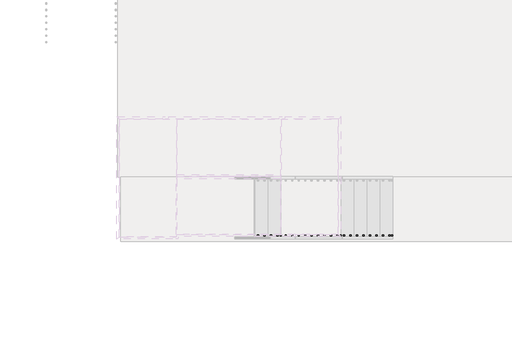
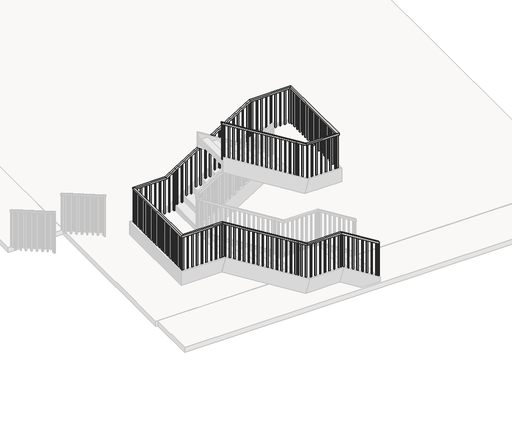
# One storey, part 2 of 5: 1 railing.
"""IFC4 building model written with IfcOpenShell, lengths in millimetres."""

from ifc_helpers import new_model, si_unit, frame, origin, place, context, project, spatial, polyline, outline, extrude, faceted_brep, element, save

model = new_model("IFC4")

# Units and contexts
model_context = context("Model", 3, world=origin())
ifc_project = project(units=[si_unit("LENGTHUNIT", "METRE", prefix="MILLI")], contexts=[model_context])

# Site, building, storey
site = spatial("IfcSite", under=ifc_project)
building = spatial("IfcBuilding", under=site)
storey = spatial("IfcBuildingStorey", under=building, Name="Hardstand", Elevation=42810.0)

# Railing
placement = place(None, origin())
element("IfcRailing", 1, ObjectType="1100mm", at=placement, inside=storey, context=model_context, shape_type="SolidModel", body=[
    faceted_brep([(-73468.5913038, 12142.5710387, 44077.5), (-73468.5913038, 12142.5710387, 44018.6599754), (-73468.5913038, 12192.5710387, 44018.6599754), (-73468.5913038, 12192.5710387, 44077.5), (-74548.5913038, 12142.5710387, 44747.5), (-74562.8408957, 12142.5710387, 44697.5), (-74562.8408957, 12192.5710387, 44697.5), (-74548.5913038, 12192.5710387, 44747.5), (-75528.5913038, 12142.5710387, 44747.5), (-75542.8408957, 12142.5710387, 44697.5), (-75542.8408957, 12192.5710387, 44697.5), (-75528.5913038, 12192.5710387, 44747.5), (-75824.9496532, 12142.5710387, 44872.5119144), (-75798.5913038, 12142.5710387, 44915.0), (-77958.5913038, 12142.5710387, 46255.0), (-77972.8408957, 12142.5710387, 46205.0), (-75824.9496532, 12192.5710387, 44872.5119144), (-77972.8408957, 12192.5710387, 46205.0), (-75798.5913038, 12192.5710387, 44915.0), (-77958.5913038, 12192.5710387, 46255.0), (-79158.1913038, 12142.5710387, 46205.0), (-79158.1913038, 12142.5710387, 46255.0), (-79158.1913038, 14591.7710387, 46255.0), (-79158.1913038, 14591.7710387, 46205.0), (-79108.1913038, 12192.5710387, 46205.0), (-79108.1913038, 14541.7710387, 46205.0), (-79108.1913038, 12192.5710387, 46255.0), (-79108.1913038, 14541.7710387, 46255.0), (-78228.5913038, 14591.7710387, 46255.0), (-78214.341712, 14591.7710387, 46205.0), (-78214.341712, 14541.7710387, 46205.0), (-78228.5913038, 14541.7710387, 46255.0), (-77958.5913038, 14591.7710387, 46422.5), (-77932.2329544, 14591.7710387, 46380.0119144), (-77932.2329544, 14541.7710387, 46380.0119144), (-77958.5913038, 14541.7710387, 46422.5), (-75798.5913038, 14591.7710387, 47762.5), (-75784.341712, 14591.7710387, 47712.5), (-75784.341712, 14541.7710387, 47712.5), (-75798.5913038, 14541.7710387, 47762.5), (-74598.9913038, 14591.7710387, 47762.5), (-74598.9913038, 14591.7710387, 47712.5), (-74648.9913038, 14541.7710387, 47712.5), (-74648.9913038, 14541.7710387, 47762.5), (-74598.9913038, 12192.5710387, 47762.5), (-74598.9913038, 12192.5710387, 47712.5), (-74648.9913038, 12242.5710387, 47712.5), (-74648.9913038, 12242.5710387, 47762.5), (-75528.5913038, 12192.5710387, 47762.5), (-75542.8408957, 12192.5710387, 47712.5), (-75542.8408957, 12242.5710387, 47712.5), (-75528.5913038, 12242.5710387, 47762.5), (-75798.5913038, 12192.5710387, 47930.0), (-75824.9496532, 12192.5710387, 47887.5119144), (-75824.9496532, 12242.5710387, 47887.5119144), (-75798.5913038, 12242.5710387, 47930.0), (-77958.5913038, 12192.5710387, 49270.0), (-77958.5913038, 12242.5710387, 49270.0), (-77958.5913038, 12242.5710387, 49211.1599754), (-77958.5913038, 12192.5710387, 49211.1599754)], [[[0, 1, 2, 3]], [[1, 0, 4, 5]], [[2, 1, 5, 6]], [[3, 2, 6, 7]], [[0, 3, 7, 4]], [[5, 4, 8, 9]], [[6, 5, 9, 10]], [[7, 6, 10, 11]], [[4, 7, 11, 8]], [[12, 13, 14, 15]], [[16, 12, 15, 17]], [[18, 16, 17, 19]], [[13, 18, 19, 14]], [[20, 21, 22, 23]], [[24, 20, 23, 25]], [[26, 24, 25, 27]], [[21, 26, 27, 22]], [[23, 22, 28, 29]], [[25, 23, 29, 30]], [[27, 25, 30, 31]], [[22, 27, 31, 28]], [[9, 8, 13, 12]], [[10, 9, 12, 16]], [[11, 10, 16, 18]], [[8, 11, 18, 13]], [[15, 14, 21, 20]], [[17, 15, 20, 24]], [[19, 17, 24, 26]], [[14, 19, 26, 21]], [[29, 28, 32, 33]], [[30, 29, 33, 34]], [[31, 30, 34, 35]], [[28, 31, 35, 32]], [[33, 32, 36, 37]], [[34, 33, 37, 38]], [[35, 34, 38, 39]], [[32, 35, 39, 36]], [[37, 36, 40, 41]], [[38, 37, 41, 42]], [[39, 38, 42, 43]], [[36, 39, 43, 40]], [[41, 40, 44, 45]], [[42, 41, 45, 46]], [[43, 42, 46, 47]], [[40, 43, 47, 44]], [[45, 44, 48, 49]], [[46, 45, 49, 50]], [[47, 46, 50, 51]], [[44, 47, 51, 48]], [[49, 48, 52, 53]], [[50, 49, 53, 54]], [[51, 50, 54, 55]], [[48, 51, 55, 52]], [[56, 57, 58, 59]], [[53, 52, 56, 59]], [[54, 53, 59, 58]], [[55, 54, 58, 57]], [[52, 55, 57, 56]]]),
    extrude(outline(polyline([(49161.5303458, -77878.5913038), (49177.0396051, -77903.5913038), (48002.5, -77903.5913038), (48002.5, -77878.5913038), (49161.5303458, -77878.5913038)])), frame((0.0, 12205.0710387, 0.0), z_axis=(0.0, 1.0, 0.0), x_axis=(0.0, 0.0, 1.0)), (0.0, 0.0, 1.0), 25.0),
    extrude(outline(polyline([(49077.7803458, -77743.5913038), (49093.2896051, -77768.5913038), (48002.5, -77768.5913038), (48002.5, -77743.5913038), (49077.7803458, -77743.5913038)])), frame((0.0, 12205.0710387, 0.0), z_axis=(0.0, 1.0, 0.0), x_axis=(0.0, 0.0, 1.0)), (0.0, 0.0, 1.0), 25.0),
    extrude(outline(polyline([(48994.0303458, -77608.5913038), (49009.5396051, -77633.5913038), (47835.0, -77633.5913038), (47835.0, -77608.5913038), (48994.0303458, -77608.5913038)])), frame((0.0, 12205.0710387, 0.0), z_axis=(0.0, 1.0, 0.0), x_axis=(0.0, 0.0, 1.0)), (0.0, 0.0, 1.0), 25.0),
    extrude(outline(polyline([(48910.2803458, -77473.5913038), (48925.7896051, -77498.5913038), (47835.0, -77498.5913038), (47835.0, -77473.5913038), (48910.2803458, -77473.5913038)])), frame((0.0, 12205.0710387, 0.0), z_axis=(0.0, 1.0, 0.0), x_axis=(0.0, 0.0, 1.0)), (0.0, 0.0, 1.0), 25.0),
    extrude(outline(polyline([(48826.5303458, -77338.5913038), (48842.0396051, -77363.5913038), (47667.5, -77363.5913038), (47667.5, -77338.5913038), (48826.5303458, -77338.5913038)])), frame((0.0, 12205.0710387, 0.0), z_axis=(0.0, 1.0, 0.0), x_axis=(0.0, 0.0, 1.0)), (0.0, 0.0, 1.0), 25.0),
    extrude(outline(polyline([(48742.7803458, -77203.5913038), (48758.2896051, -77228.5913038), (47667.5, -77228.5913038), (47667.5, -77203.5913038), (48742.7803458, -77203.5913038)])), frame((0.0, 12205.0710387, 0.0), z_axis=(0.0, 1.0, 0.0), x_axis=(0.0, 0.0, 1.0)), (0.0, 0.0, 1.0), 25.0),
    extrude(outline(polyline([(48659.0303458, -77068.5913038), (48674.5396051, -77093.5913038), (47500.0, -77093.5913038), (47500.0, -77068.5913038), (48659.0303458, -77068.5913038)])), frame((0.0, 12205.0710387, 0.0), z_axis=(0.0, 1.0, 0.0), x_axis=(0.0, 0.0, 1.0)), (0.0, 0.0, 1.0), 25.0),
    extrude(outline(polyline([(48575.2803458, -76933.5913038), (48590.7896051, -76958.5913038), (47500.0, -76958.5913038), (47500.0, -76933.5913038), (48575.2803458, -76933.5913038)])), frame((0.0, 12205.0710387, 0.0), z_axis=(0.0, 1.0, 0.0), x_axis=(0.0, 0.0, 1.0)), (0.0, 0.0, 1.0), 25.0),
    extrude(outline(polyline([(48491.5303458, -76798.5913038), (48507.0396051, -76823.5913038), (47332.5, -76823.5913038), (47332.5, -76798.5913038), (48491.5303458, -76798.5913038)])), frame((0.0, 12205.0710387, 0.0), z_axis=(0.0, 1.0, 0.0), x_axis=(0.0, 0.0, 1.0)), (0.0, 0.0, 1.0), 25.0),
    extrude(outline(polyline([(48407.7803458, -76663.5913038), (48423.2896051, -76688.5913038), (47332.5, -76688.5913038), (47332.5, -76663.5913038), (48407.7803458, -76663.5913038)])), frame((0.0, 12205.0710387, 0.0), z_axis=(0.0, 1.0, 0.0), x_axis=(0.0, 0.0, 1.0)), (0.0, 0.0, 1.0), 25.0),
    extrude(outline(polyline([(48324.0303458, -76528.5913038), (48339.5396051, -76553.5913038), (47165.0, -76553.5913038), (47165.0, -76528.5913038), (48324.0303458, -76528.5913038)])), frame((0.0, 12205.0710387, 0.0), z_axis=(0.0, 1.0, 0.0), x_axis=(0.0, 0.0, 1.0)), (0.0, 0.0, 1.0), 25.0),
    extrude(outline(polyline([(48240.2803458, -76393.5913038), (48255.7896051, -76418.5913038), (47165.0, -76418.5913038), (47165.0, -76393.5913038), (48240.2803458, -76393.5913038)])), frame((0.0, 12205.0710387, 0.0), z_axis=(0.0, 1.0, 0.0), x_axis=(0.0, 0.0, 1.0)), (0.0, 0.0, 1.0), 25.0),
    extrude(outline(polyline([(48156.5303458, -76258.5913038), (48172.0396051, -76283.5913038), (46997.5, -76283.5913038), (46997.5, -76258.5913038), (48156.5303458, -76258.5913038)])), frame((0.0, 12205.0710387, 0.0), z_axis=(0.0, 1.0, 0.0), x_axis=(0.0, 0.0, 1.0)), (0.0, 0.0, 1.0), 25.0),
    extrude(outline(polyline([(48072.7803458, -76123.5913038), (48088.2896051, -76148.5913038), (46997.5, -76148.5913038), (46997.5, -76123.5913038), (48072.7803458, -76123.5913038)])), frame((0.0, 12205.0710387, 0.0), z_axis=(0.0, 1.0, 0.0), x_axis=(0.0, 0.0, 1.0)), (0.0, 0.0, 1.0), 25.0),
    extrude(outline(polyline([(47989.0303458, -75988.5913038), (48004.5396051, -76013.5913038), (46830.0, -76013.5913038), (46830.0, -75988.5913038), (47989.0303458, -75988.5913038)])), frame((0.0, 12205.0710387, 0.0), z_axis=(0.0, 1.0, 0.0), x_axis=(0.0, 0.0, 1.0)), (0.0, 0.0, 1.0), 25.0),
    extrude(outline(polyline([(47905.2803458, -75853.5913038), (47920.7896051, -75878.5913038), (46830.0, -75878.5913038), (46830.0, -75853.5913038), (47905.2803458, -75853.5913038)])), frame((0.0, 12205.0710387, 0.0), z_axis=(0.0, 1.0, 0.0), x_axis=(0.0, 0.0, 1.0)), (0.0, 0.0, 1.0), 25.0),
    extrude(outline(polyline([(47846.5933088, -75758.9913038), (47862.102568, -75783.9913038), (46662.5, -75783.9913038), (46662.5, -75758.9913038), (47846.5933088, -75758.9913038)])), frame((0.0, 12205.0710387, 0.0), z_axis=(0.0, 1.0, 0.0), x_axis=(0.0, 0.0, 1.0)), (0.0, 0.0, 1.0), 25.0),
    extrude(outline(polyline([(47762.8433088, -75623.9913038), (47778.352568, -75648.9913038), (46662.5, -75648.9913038), (46662.5, -75623.9913038), (47762.8433088, -75623.9913038)])), frame((0.0, 12205.0710387, 0.0), z_axis=(0.0, 1.0, 0.0), x_axis=(0.0, 0.0, 1.0)), (0.0, 0.0, 1.0), 25.0),
    extrude(outline(polyline([(-75488.9913038, 12205.0710387), (-75513.9913038, 12205.0710387), (-75513.9913038, 12230.0710387), (-75488.9913038, 12230.0710387), (-75488.9913038, 12205.0710387)])), frame((0.0, 0.0, 46662.5), z_axis=(0.0, 0.0, 1.0), x_axis=(1.0, 0.0, 0.0)), (0.0, 0.0, 1.0), 1050.0),
    extrude(outline(polyline([(-75353.9913038, 12205.0710387), (-75378.9913038, 12205.0710387), (-75378.9913038, 12230.0710387), (-75353.9913038, 12230.0710387), (-75353.9913038, 12205.0710387)])), frame((0.0, 0.0, 46662.5), z_axis=(0.0, 0.0, 1.0), x_axis=(1.0, 0.0, 0.0)), (0.0, 0.0, 1.0), 1050.0),
    extrude(outline(polyline([(-75218.9913038, 12205.0710387), (-75243.9913038, 12205.0710387), (-75243.9913038, 12230.0710387), (-75218.9913038, 12230.0710387), (-75218.9913038, 12205.0710387)])), frame((0.0, 0.0, 46662.5), z_axis=(0.0, 0.0, 1.0), x_axis=(1.0, 0.0, 0.0)), (0.0, 0.0, 1.0), 1050.0),
    extrude(outline(polyline([(-75083.9913038, 12205.0710387), (-75108.9913038, 12205.0710387), (-75108.9913038, 12230.0710387), (-75083.9913038, 12230.0710387), (-75083.9913038, 12205.0710387)])), frame((0.0, 0.0, 46662.5), z_axis=(0.0, 0.0, 1.0), x_axis=(1.0, 0.0, 0.0)), (0.0, 0.0, 1.0), 1050.0),
    extrude(outline(polyline([(-74948.9913038, 12205.0710387), (-74973.9913038, 12205.0710387), (-74973.9913038, 12230.0710387), (-74948.9913038, 12230.0710387), (-74948.9913038, 12205.0710387)])), frame((0.0, 0.0, 46662.5), z_axis=(0.0, 0.0, 1.0), x_axis=(1.0, 0.0, 0.0)), (0.0, 0.0, 1.0), 1050.0),
    extrude(outline(polyline([(-74813.9913038, 12205.0710387), (-74838.9913038, 12205.0710387), (-74838.9913038, 12230.0710387), (-74813.9913038, 12230.0710387), (-74813.9913038, 12205.0710387)])), frame((0.0, 0.0, 46662.5), z_axis=(0.0, 0.0, 1.0), x_axis=(1.0, 0.0, 0.0)), (0.0, 0.0, 1.0), 1050.0),
    extrude(outline(polyline([(-74678.9913038, 12205.0710387), (-74703.9913038, 12205.0710387), (-74703.9913038, 12230.0710387), (-74678.9913038, 12230.0710387), (-74678.9913038, 12205.0710387)])), frame((0.0, 0.0, 46662.5), z_axis=(0.0, 0.0, 1.0), x_axis=(1.0, 0.0, 0.0)), (0.0, 0.0, 1.0), 1050.0),
    extrude(outline(polyline([(-74611.4913038, 12351.7710387), (-74611.4913038, 12326.7710387), (-74636.4913038, 12326.7710387), (-74636.4913038, 12351.7710387), (-74611.4913038, 12351.7710387)])), frame((0.0, 0.0, 46662.5), z_axis=(0.0, 0.0, 1.0), x_axis=(1.0, 0.0, 0.0)), (0.0, 0.0, 1.0), 1050.0),
    extrude(outline(polyline([(-74611.4913038, 12486.7710387), (-74611.4913038, 12461.7710387), (-74636.4913038, 12461.7710387), (-74636.4913038, 12486.7710387), (-74611.4913038, 12486.7710387)])), frame((0.0, 0.0, 46662.5), z_axis=(0.0, 0.0, 1.0), x_axis=(1.0, 0.0, 0.0)), (0.0, 0.0, 1.0), 1050.0),
    extrude(outline(polyline([(-74611.4913038, 12621.7710387), (-74611.4913038, 12596.7710387), (-74636.4913038, 12596.7710387), (-74636.4913038, 12621.7710387), (-74611.4913038, 12621.7710387)])), frame((0.0, 0.0, 46662.5), z_axis=(0.0, 0.0, 1.0), x_axis=(1.0, 0.0, 0.0)), (0.0, 0.0, 1.0), 1050.0),
    extrude(outline(polyline([(-74611.4913038, 12756.7710387), (-74611.4913038, 12731.7710387), (-74636.4913038, 12731.7710387), (-74636.4913038, 12756.7710387), (-74611.4913038, 12756.7710387)])), frame((0.0, 0.0, 46662.5), z_axis=(0.0, 0.0, 1.0), x_axis=(1.0, 0.0, 0.0)), (0.0, 0.0, 1.0), 1050.0),
    extrude(outline(polyline([(-74611.4913038, 12891.7710387), (-74611.4913038, 12866.7710387), (-74636.4913038, 12866.7710387), (-74636.4913038, 12891.7710387), (-74611.4913038, 12891.7710387)])), frame((0.0, 0.0, 46662.5), z_axis=(0.0, 0.0, 1.0), x_axis=(1.0, 0.0, 0.0)), (0.0, 0.0, 1.0), 1050.0),
    extrude(outline(polyline([(-74611.4913038, 13026.7710387), (-74611.4913038, 13001.7710387), (-74636.4913038, 13001.7710387), (-74636.4913038, 13026.7710387), (-74611.4913038, 13026.7710387)])), frame((0.0, 0.0, 46662.5), z_axis=(0.0, 0.0, 1.0), x_axis=(1.0, 0.0, 0.0)), (0.0, 0.0, 1.0), 1050.0),
    extrude(outline(polyline([(-74611.4913038, 13161.7710387), (-74611.4913038, 13136.7710387), (-74636.4913038, 13136.7710387), (-74636.4913038, 13161.7710387), (-74611.4913038, 13161.7710387)])), frame((0.0, 0.0, 46662.5), z_axis=(0.0, 0.0, 1.0), x_axis=(1.0, 0.0, 0.0)), (0.0, 0.0, 1.0), 1050.0),
    extrude(outline(polyline([(-74611.4913038, 13296.7710387), (-74611.4913038, 13271.7710387), (-74636.4913038, 13271.7710387), (-74636.4913038, 13296.7710387), (-74611.4913038, 13296.7710387)])), frame((0.0, 0.0, 46662.5), z_axis=(0.0, 0.0, 1.0), x_axis=(1.0, 0.0, 0.0)), (0.0, 0.0, 1.0), 1050.0),
    extrude(outline(polyline([(-74611.4913038, 13431.7710387), (-74611.4913038, 13406.7710387), (-74636.4913038, 13406.7710387), (-74636.4913038, 13431.7710387), (-74611.4913038, 13431.7710387)])), frame((0.0, 0.0, 46662.5), z_axis=(0.0, 0.0, 1.0), x_axis=(1.0, 0.0, 0.0)), (0.0, 0.0, 1.0), 1050.0),
    extrude(outline(polyline([(-74611.4913038, 13566.7710387), (-74611.4913038, 13541.7710387), (-74636.4913038, 13541.7710387), (-74636.4913038, 13566.7710387), (-74611.4913038, 13566.7710387)])), frame((0.0, 0.0, 46662.5), z_axis=(0.0, 0.0, 1.0), x_axis=(1.0, 0.0, 0.0)), (0.0, 0.0, 1.0), 1050.0),
    extrude(outline(polyline([(-74611.4913038, 13701.7710387), (-74611.4913038, 13676.7710387), (-74636.4913038, 13676.7710387), (-74636.4913038, 13701.7710387), (-74611.4913038, 13701.7710387)])), frame((0.0, 0.0, 46662.5), z_axis=(0.0, 0.0, 1.0), x_axis=(1.0, 0.0, 0.0)), (0.0, 0.0, 1.0), 1050.0),
    extrude(outline(polyline([(-74611.4913038, 13836.7710387), (-74611.4913038, 13811.7710387), (-74636.4913038, 13811.7710387), (-74636.4913038, 13836.7710387), (-74611.4913038, 13836.7710387)])), frame((0.0, 0.0, 46662.5), z_axis=(0.0, 0.0, 1.0), x_axis=(1.0, 0.0, 0.0)), (0.0, 0.0, 1.0), 1050.0),
    extrude(outline(polyline([(-74611.4913038, 13971.7710387), (-74611.4913038, 13946.7710387), (-74636.4913038, 13946.7710387), (-74636.4913038, 13971.7710387), (-74611.4913038, 13971.7710387)])), frame((0.0, 0.0, 46662.5), z_axis=(0.0, 0.0, 1.0), x_axis=(1.0, 0.0, 0.0)), (0.0, 0.0, 1.0), 1050.0),
    extrude(outline(polyline([(-74611.4913038, 14106.7710387), (-74611.4913038, 14081.7710387), (-74636.4913038, 14081.7710387), (-74636.4913038, 14106.7710387), (-74611.4913038, 14106.7710387)])), frame((0.0, 0.0, 46662.5), z_axis=(0.0, 0.0, 1.0), x_axis=(1.0, 0.0, 0.0)), (0.0, 0.0, 1.0), 1050.0),
    extrude(outline(polyline([(-74611.4913038, 14241.7710387), (-74611.4913038, 14216.7710387), (-74636.4913038, 14216.7710387), (-74636.4913038, 14241.7710387), (-74611.4913038, 14241.7710387)])), frame((0.0, 0.0, 46662.5), z_axis=(0.0, 0.0, 1.0), x_axis=(1.0, 0.0, 0.0)), (0.0, 0.0, 1.0), 1050.0),
    extrude(outline(polyline([(-74611.4913038, 14376.7710387), (-74611.4913038, 14351.7710387), (-74636.4913038, 14351.7710387), (-74636.4913038, 14376.7710387), (-74611.4913038, 14376.7710387)])), frame((0.0, 0.0, 46662.5), z_axis=(0.0, 0.0, 1.0), x_axis=(1.0, 0.0, 0.0)), (0.0, 0.0, 1.0), 1050.0),
    extrude(outline(polyline([(-74611.4913038, 14511.7710387), (-74611.4913038, 14486.7710387), (-74636.4913038, 14486.7710387), (-74636.4913038, 14511.7710387), (-74611.4913038, 14511.7710387)])), frame((0.0, 0.0, 46662.5), z_axis=(0.0, 0.0, 1.0), x_axis=(1.0, 0.0, 0.0)), (0.0, 0.0, 1.0), 1050.0),
    extrude(outline(polyline([(-74663.5913038, 14579.2710387), (-74638.5913038, 14579.2710387), (-74638.5913038, 14554.2710387), (-74663.5913038, 14554.2710387), (-74663.5913038, 14579.2710387)])), frame((0.0, 0.0, 46662.5), z_axis=(0.0, 0.0, 1.0), x_axis=(1.0, 0.0, 0.0)), (0.0, 0.0, 1.0), 1050.0),
    extrude(outline(polyline([(-74798.5913038, 14579.2710387), (-74773.5913038, 14579.2710387), (-74773.5913038, 14554.2710387), (-74798.5913038, 14554.2710387), (-74798.5913038, 14579.2710387)])), frame((0.0, 0.0, 46662.5), z_axis=(0.0, 0.0, 1.0), x_axis=(1.0, 0.0, 0.0)), (0.0, 0.0, 1.0), 1050.0),
    extrude(outline(polyline([(-74933.5913038, 14579.2710387), (-74908.5913038, 14579.2710387), (-74908.5913038, 14554.2710387), (-74933.5913038, 14554.2710387), (-74933.5913038, 14579.2710387)])), frame((0.0, 0.0, 46662.5), z_axis=(0.0, 0.0, 1.0), x_axis=(1.0, 0.0, 0.0)), (0.0, 0.0, 1.0), 1050.0),
    extrude(outline(polyline([(-75068.5913038, 14579.2710387), (-75043.5913038, 14579.2710387), (-75043.5913038, 14554.2710387), (-75068.5913038, 14554.2710387), (-75068.5913038, 14579.2710387)])), frame((0.0, 0.0, 46662.5), z_axis=(0.0, 0.0, 1.0), x_axis=(1.0, 0.0, 0.0)), (0.0, 0.0, 1.0), 1050.0),
    extrude(outline(polyline([(-75203.5913038, 14579.2710387), (-75178.5913038, 14579.2710387), (-75178.5913038, 14554.2710387), (-75203.5913038, 14554.2710387), (-75203.5913038, 14579.2710387)])), frame((0.0, 0.0, 46662.5), z_axis=(0.0, 0.0, 1.0), x_axis=(1.0, 0.0, 0.0)), (0.0, 0.0, 1.0), 1050.0),
    extrude(outline(polyline([(-75338.5913038, 14579.2710387), (-75313.5913038, 14579.2710387), (-75313.5913038, 14554.2710387), (-75338.5913038, 14554.2710387), (-75338.5913038, 14579.2710387)])), frame((0.0, 0.0, 46662.5), z_axis=(0.0, 0.0, 1.0), x_axis=(1.0, 0.0, 0.0)), (0.0, 0.0, 1.0), 1050.0),
    extrude(outline(polyline([(-75473.5913038, 14579.2710387), (-75448.5913038, 14579.2710387), (-75448.5913038, 14554.2710387), (-75473.5913038, 14554.2710387), (-75473.5913038, 14579.2710387)])), frame((0.0, 0.0, 46662.5), z_axis=(0.0, 0.0, 1.0), x_axis=(1.0, 0.0, 0.0)), (0.0, 0.0, 1.0), 1050.0),
    extrude(outline(polyline([(-75608.5913038, 14579.2710387), (-75583.5913038, 14579.2710387), (-75583.5913038, 14554.2710387), (-75608.5913038, 14554.2710387), (-75608.5913038, 14579.2710387)])), frame((0.0, 0.0, 46662.5), z_axis=(0.0, 0.0, 1.0), x_axis=(1.0, 0.0, 0.0)), (0.0, 0.0, 1.0), 1050.0),
    extrude(outline(polyline([(-75743.5913038, 14579.2710387), (-75718.5913038, 14579.2710387), (-75718.5913038, 14554.2710387), (-75743.5913038, 14554.2710387), (-75743.5913038, 14579.2710387)])), frame((0.0, 0.0, 46662.5), z_axis=(0.0, 0.0, 1.0), x_axis=(1.0, 0.0, 0.0)), (0.0, 0.0, 1.0), 1050.0),
    extrude(outline(polyline([(46495.0, -75878.5913038), (46495.0, -75853.5913038), (47669.5396051, -75853.5913038), (47654.0303458, -75878.5913038), (46495.0, -75878.5913038)])), frame((0.0, 14554.2710387, 0.0), z_axis=(0.0, 1.0, 0.0), x_axis=(0.0, 0.0, 1.0)), (0.0, 0.0, 1.0), 25.0),
    extrude(outline(polyline([(46495.0, -76013.5913038), (46495.0, -75988.5913038), (47585.7896051, -75988.5913038), (47570.2803458, -76013.5913038), (46495.0, -76013.5913038)])), frame((0.0, 14554.2710387, 0.0), z_axis=(0.0, 1.0, 0.0), x_axis=(0.0, 0.0, 1.0)), (0.0, 0.0, 1.0), 25.0),
    extrude(outline(polyline([(46327.5, -76148.5913038), (46327.5, -76123.5913038), (47502.0396051, -76123.5913038), (47486.5303458, -76148.5913038), (46327.5, -76148.5913038)])), frame((0.0, 14554.2710387, 0.0), z_axis=(0.0, 1.0, 0.0), x_axis=(0.0, 0.0, 1.0)), (0.0, 0.0, 1.0), 25.0),
    extrude(outline(polyline([(46327.5, -76283.5913038), (46327.5, -76258.5913038), (47418.2896051, -76258.5913038), (47402.7803458, -76283.5913038), (46327.5, -76283.5913038)])), frame((0.0, 14554.2710387, 0.0), z_axis=(0.0, 1.0, 0.0), x_axis=(0.0, 0.0, 1.0)), (0.0, 0.0, 1.0), 25.0),
    extrude(outline(polyline([(46160.0, -76418.5913038), (46160.0, -76393.5913038), (47334.5396051, -76393.5913038), (47319.0303458, -76418.5913038), (46160.0, -76418.5913038)])), frame((0.0, 14554.2710387, 0.0), z_axis=(0.0, 1.0, 0.0), x_axis=(0.0, 0.0, 1.0)), (0.0, 0.0, 1.0), 25.0),
    extrude(outline(polyline([(46160.0, -76553.5913038), (46160.0, -76528.5913038), (47250.7896051, -76528.5913038), (47235.2803458, -76553.5913038), (46160.0, -76553.5913038)])), frame((0.0, 14554.2710387, 0.0), z_axis=(0.0, 1.0, 0.0), x_axis=(0.0, 0.0, 1.0)), (0.0, 0.0, 1.0), 25.0),
    extrude(outline(polyline([(45992.5, -76688.5913038), (45992.5, -76663.5913038), (47167.0396051, -76663.5913038), (47151.5303458, -76688.5913038), (45992.5, -76688.5913038)])), frame((0.0, 14554.2710387, 0.0), z_axis=(0.0, 1.0, 0.0), x_axis=(0.0, 0.0, 1.0)), (0.0, 0.0, 1.0), 25.0),
    extrude(outline(polyline([(45992.5, -76823.5913038), (45992.5, -76798.5913038), (47083.2896051, -76798.5913038), (47067.7803458, -76823.5913038), (45992.5, -76823.5913038)])), frame((0.0, 14554.2710387, 0.0), z_axis=(0.0, 1.0, 0.0), x_axis=(0.0, 0.0, 1.0)), (0.0, 0.0, 1.0), 25.0),
    extrude(outline(polyline([(45825.0, -76958.5913038), (45825.0, -76933.5913038), (46999.5396051, -76933.5913038), (46984.0303458, -76958.5913038), (45825.0, -76958.5913038)])), frame((0.0, 14554.2710387, 0.0), z_axis=(0.0, 1.0, 0.0), x_axis=(0.0, 0.0, 1.0)), (0.0, 0.0, 1.0), 25.0),
    extrude(outline(polyline([(45825.0, -77093.5913038), (45825.0, -77068.5913038), (46915.7896051, -77068.5913038), (46900.2803458, -77093.5913038), (45825.0, -77093.5913038)])), frame((0.0, 14554.2710387, 0.0), z_axis=(0.0, 1.0, 0.0), x_axis=(0.0, 0.0, 1.0)), (0.0, 0.0, 1.0), 25.0),
    extrude(outline(polyline([(45657.5, -77228.5913038), (45657.5, -77203.5913038), (46832.0396051, -77203.5913038), (46816.5303458, -77228.5913038), (45657.5, -77228.5913038)])), frame((0.0, 14554.2710387, 0.0), z_axis=(0.0, 1.0, 0.0), x_axis=(0.0, 0.0, 1.0)), (0.0, 0.0, 1.0), 25.0),
    extrude(outline(polyline([(45657.5, -77363.5913038), (45657.5, -77338.5913038), (46748.2896051, -77338.5913038), (46732.7803458, -77363.5913038), (45657.5, -77363.5913038)])), frame((0.0, 14554.2710387, 0.0), z_axis=(0.0, 1.0, 0.0), x_axis=(0.0, 0.0, 1.0)), (0.0, 0.0, 1.0), 25.0),
    extrude(outline(polyline([(45490.0, -77498.5913038), (45490.0, -77473.5913038), (46664.5396051, -77473.5913038), (46649.0303458, -77498.5913038), (45490.0, -77498.5913038)])), frame((0.0, 14554.2710387, 0.0), z_axis=(0.0, 1.0, 0.0), x_axis=(0.0, 0.0, 1.0)), (0.0, 0.0, 1.0), 25.0),
    extrude(outline(polyline([(45490.0, -77633.5913038), (45490.0, -77608.5913038), (46580.7896051, -77608.5913038), (46565.2803458, -77633.5913038), (45490.0, -77633.5913038)])), frame((0.0, 14554.2710387, 0.0), z_axis=(0.0, 1.0, 0.0), x_axis=(0.0, 0.0, 1.0)), (0.0, 0.0, 1.0), 25.0),
    extrude(outline(polyline([(45322.5, -77768.5913038), (45322.5, -77743.5913038), (46497.0396051, -77743.5913038), (46481.5303458, -77768.5913038), (45322.5, -77768.5913038)])), frame((0.0, 14554.2710387, 0.0), z_axis=(0.0, 1.0, 0.0), x_axis=(0.0, 0.0, 1.0)), (0.0, 0.0, 1.0), 25.0),
    extrude(outline(polyline([(45322.5, -77903.5913038), (45322.5, -77878.5913038), (46413.2896051, -77878.5913038), (46397.7803458, -77903.5913038), (45322.5, -77903.5913038)])), frame((0.0, 14554.2710387, 0.0), z_axis=(0.0, 1.0, 0.0), x_axis=(0.0, 0.0, 1.0)), (0.0, 0.0, 1.0), 25.0),
    extrude(outline(polyline([(45155.0, -77998.1913038), (45155.0, -77973.1913038), (46354.602568, -77973.1913038), (46339.0933088, -77998.1913038), (45155.0, -77998.1913038)])), frame((0.0, 14554.2710387, 0.0), z_axis=(0.0, 1.0, 0.0), x_axis=(0.0, 0.0, 1.0)), (0.0, 0.0, 1.0), 25.0),
    extrude(outline(polyline([(45155.0, -78133.1913038), (45155.0, -78108.1913038), (46270.852568, -78108.1913038), (46255.3433088, -78133.1913038), (45155.0, -78133.1913038)])), frame((0.0, 14554.2710387, 0.0), z_axis=(0.0, 1.0, 0.0), x_axis=(0.0, 0.0, 1.0)), (0.0, 0.0, 1.0), 25.0),
    extrude(outline(polyline([(-78268.1913038, 14579.2710387), (-78243.1913038, 14579.2710387), (-78243.1913038, 14554.2710387), (-78268.1913038, 14554.2710387), (-78268.1913038, 14579.2710387)])), frame((0.0, 0.0, 45155.0), z_axis=(0.0, 0.0, 1.0), x_axis=(1.0, 0.0, 0.0)), (0.0, 0.0, 1.0), 1050.0),
    extrude(outline(polyline([(-78403.1913038, 14579.2710387), (-78378.1913038, 14579.2710387), (-78378.1913038, 14554.2710387), (-78403.1913038, 14554.2710387), (-78403.1913038, 14579.2710387)])), frame((0.0, 0.0, 45155.0), z_axis=(0.0, 0.0, 1.0), x_axis=(1.0, 0.0, 0.0)), (0.0, 0.0, 1.0), 1050.0),
    extrude(outline(polyline([(-78538.1913038, 14579.2710387), (-78513.1913038, 14579.2710387), (-78513.1913038, 14554.2710387), (-78538.1913038, 14554.2710387), (-78538.1913038, 14579.2710387)])), frame((0.0, 0.0, 45155.0), z_axis=(0.0, 0.0, 1.0), x_axis=(1.0, 0.0, 0.0)), (0.0, 0.0, 1.0), 1050.0),
    extrude(outline(polyline([(-78673.1913038, 14579.2710387), (-78648.1913038, 14579.2710387), (-78648.1913038, 14554.2710387), (-78673.1913038, 14554.2710387), (-78673.1913038, 14579.2710387)])), frame((0.0, 0.0, 45155.0), z_axis=(0.0, 0.0, 1.0), x_axis=(1.0, 0.0, 0.0)), (0.0, 0.0, 1.0), 1050.0),
    extrude(outline(polyline([(-78808.1913038, 14579.2710387), (-78783.1913038, 14579.2710387), (-78783.1913038, 14554.2710387), (-78808.1913038, 14554.2710387), (-78808.1913038, 14579.2710387)])), frame((0.0, 0.0, 45155.0), z_axis=(0.0, 0.0, 1.0), x_axis=(1.0, 0.0, 0.0)), (0.0, 0.0, 1.0), 1050.0),
    extrude(outline(polyline([(-78943.1913038, 14579.2710387), (-78918.1913038, 14579.2710387), (-78918.1913038, 14554.2710387), (-78943.1913038, 14554.2710387), (-78943.1913038, 14579.2710387)])), frame((0.0, 0.0, 45155.0), z_axis=(0.0, 0.0, 1.0), x_axis=(1.0, 0.0, 0.0)), (0.0, 0.0, 1.0), 1050.0),
    extrude(outline(polyline([(-79078.1913038, 14579.2710387), (-79053.1913038, 14579.2710387), (-79053.1913038, 14554.2710387), (-79078.1913038, 14554.2710387), (-79078.1913038, 14579.2710387)])), frame((0.0, 0.0, 45155.0), z_axis=(0.0, 0.0, 1.0), x_axis=(1.0, 0.0, 0.0)), (0.0, 0.0, 1.0), 1050.0),
    extrude(outline(polyline([(-79145.6913038, 14517.5710387), (-79145.6913038, 14542.5710387), (-79120.6913038, 14542.5710387), (-79120.6913038, 14517.5710387), (-79145.6913038, 14517.5710387)])), frame((0.0, 0.0, 45155.0), z_axis=(0.0, 0.0, 1.0), x_axis=(1.0, 0.0, 0.0)), (0.0, 0.0, 1.0), 1050.0),
    extrude(outline(polyline([(-79145.6913038, 14382.5710387), (-79145.6913038, 14407.5710387), (-79120.6913038, 14407.5710387), (-79120.6913038, 14382.5710387), (-79145.6913038, 14382.5710387)])), frame((0.0, 0.0, 45155.0), z_axis=(0.0, 0.0, 1.0), x_axis=(1.0, 0.0, 0.0)), (0.0, 0.0, 1.0), 1050.0),
    extrude(outline(polyline([(-79145.6913038, 14247.5710387), (-79145.6913038, 14272.5710387), (-79120.6913038, 14272.5710387), (-79120.6913038, 14247.5710387), (-79145.6913038, 14247.5710387)])), frame((0.0, 0.0, 45155.0), z_axis=(0.0, 0.0, 1.0), x_axis=(1.0, 0.0, 0.0)), (0.0, 0.0, 1.0), 1050.0),
    extrude(outline(polyline([(-79145.6913038, 14112.5710387), (-79145.6913038, 14137.5710387), (-79120.6913038, 14137.5710387), (-79120.6913038, 14112.5710387), (-79145.6913038, 14112.5710387)])), frame((0.0, 0.0, 45155.0), z_axis=(0.0, 0.0, 1.0), x_axis=(1.0, 0.0, 0.0)), (0.0, 0.0, 1.0), 1050.0),
    extrude(outline(polyline([(-79145.6913038, 13977.5710387), (-79145.6913038, 14002.5710387), (-79120.6913038, 14002.5710387), (-79120.6913038, 13977.5710387), (-79145.6913038, 13977.5710387)])), frame((0.0, 0.0, 45155.0), z_axis=(0.0, 0.0, 1.0), x_axis=(1.0, 0.0, 0.0)), (0.0, 0.0, 1.0), 1050.0),
    extrude(outline(polyline([(-79145.6913038, 13842.5710387), (-79145.6913038, 13867.5710387), (-79120.6913038, 13867.5710387), (-79120.6913038, 13842.5710387), (-79145.6913038, 13842.5710387)])), frame((0.0, 0.0, 45155.0), z_axis=(0.0, 0.0, 1.0), x_axis=(1.0, 0.0, 0.0)), (0.0, 0.0, 1.0), 1050.0),
    extrude(outline(polyline([(-79145.6913038, 13707.5710387), (-79145.6913038, 13732.5710387), (-79120.6913038, 13732.5710387), (-79120.6913038, 13707.5710387), (-79145.6913038, 13707.5710387)])), frame((0.0, 0.0, 45155.0), z_axis=(0.0, 0.0, 1.0), x_axis=(1.0, 0.0, 0.0)), (0.0, 0.0, 1.0), 1050.0),
    extrude(outline(polyline([(-79145.6913038, 13572.5710387), (-79145.6913038, 13597.5710387), (-79120.6913038, 13597.5710387), (-79120.6913038, 13572.5710387), (-79145.6913038, 13572.5710387)])), frame((0.0, 0.0, 45155.0), z_axis=(0.0, 0.0, 1.0), x_axis=(1.0, 0.0, 0.0)), (0.0, 0.0, 1.0), 1050.0),
    extrude(outline(polyline([(-79145.6913038, 13437.5710387), (-79145.6913038, 13462.5710387), (-79120.6913038, 13462.5710387), (-79120.6913038, 13437.5710387), (-79145.6913038, 13437.5710387)])), frame((0.0, 0.0, 45155.0), z_axis=(0.0, 0.0, 1.0), x_axis=(1.0, 0.0, 0.0)), (0.0, 0.0, 1.0), 1050.0),
    extrude(outline(polyline([(-79145.6913038, 13302.5710387), (-79145.6913038, 13327.5710387), (-79120.6913038, 13327.5710387), (-79120.6913038, 13302.5710387), (-79145.6913038, 13302.5710387)])), frame((0.0, 0.0, 45155.0), z_axis=(0.0, 0.0, 1.0), x_axis=(1.0, 0.0, 0.0)), (0.0, 0.0, 1.0), 1050.0),
    extrude(outline(polyline([(-79145.6913038, 13167.5710387), (-79145.6913038, 13192.5710387), (-79120.6913038, 13192.5710387), (-79120.6913038, 13167.5710387), (-79145.6913038, 13167.5710387)])), frame((0.0, 0.0, 45155.0), z_axis=(0.0, 0.0, 1.0), x_axis=(1.0, 0.0, 0.0)), (0.0, 0.0, 1.0), 1050.0),
    extrude(outline(polyline([(-79145.6913038, 13032.5710387), (-79145.6913038, 13057.5710387), (-79120.6913038, 13057.5710387), (-79120.6913038, 13032.5710387), (-79145.6913038, 13032.5710387)])), frame((0.0, 0.0, 45155.0), z_axis=(0.0, 0.0, 1.0), x_axis=(1.0, 0.0, 0.0)), (0.0, 0.0, 1.0), 1050.0),
    extrude(outline(polyline([(-79145.6913038, 12897.5710387), (-79145.6913038, 12922.5710387), (-79120.6913038, 12922.5710387), (-79120.6913038, 12897.5710387), (-79145.6913038, 12897.5710387)])), frame((0.0, 0.0, 45155.0), z_axis=(0.0, 0.0, 1.0), x_axis=(1.0, 0.0, 0.0)), (0.0, 0.0, 1.0), 1050.0),
    extrude(outline(polyline([(-79145.6913038, 12762.5710387), (-79145.6913038, 12787.5710387), (-79120.6913038, 12787.5710387), (-79120.6913038, 12762.5710387), (-79145.6913038, 12762.5710387)])), frame((0.0, 0.0, 45155.0), z_axis=(0.0, 0.0, 1.0), x_axis=(1.0, 0.0, 0.0)), (0.0, 0.0, 1.0), 1050.0),
    extrude(outline(polyline([(-79145.6913038, 12627.5710387), (-79145.6913038, 12652.5710387), (-79120.6913038, 12652.5710387), (-79120.6913038, 12627.5710387), (-79145.6913038, 12627.5710387)])), frame((0.0, 0.0, 45155.0), z_axis=(0.0, 0.0, 1.0), x_axis=(1.0, 0.0, 0.0)), (0.0, 0.0, 1.0), 1050.0),
    extrude(outline(polyline([(-79145.6913038, 12492.5710387), (-79145.6913038, 12517.5710387), (-79120.6913038, 12517.5710387), (-79120.6913038, 12492.5710387), (-79145.6913038, 12492.5710387)])), frame((0.0, 0.0, 45155.0), z_axis=(0.0, 0.0, 1.0), x_axis=(1.0, 0.0, 0.0)), (0.0, 0.0, 1.0), 1050.0),
    extrude(outline(polyline([(-79145.6913038, 12357.5710387), (-79145.6913038, 12382.5710387), (-79120.6913038, 12382.5710387), (-79120.6913038, 12357.5710387), (-79145.6913038, 12357.5710387)])), frame((0.0, 0.0, 45155.0), z_axis=(0.0, 0.0, 1.0), x_axis=(1.0, 0.0, 0.0)), (0.0, 0.0, 1.0), 1050.0),
    extrude(outline(polyline([(-79145.6913038, 12222.5710387), (-79145.6913038, 12247.5710387), (-79120.6913038, 12247.5710387), (-79120.6913038, 12222.5710387), (-79145.6913038, 12222.5710387)])), frame((0.0, 0.0, 45155.0), z_axis=(0.0, 0.0, 1.0), x_axis=(1.0, 0.0, 0.0)), (0.0, 0.0, 1.0), 1050.0),
    extrude(outline(polyline([(-79093.5913038, 12155.0710387), (-79118.5913038, 12155.0710387), (-79118.5913038, 12180.0710387), (-79093.5913038, 12180.0710387), (-79093.5913038, 12155.0710387)])), frame((0.0, 0.0, 45155.0), z_axis=(0.0, 0.0, 1.0), x_axis=(1.0, 0.0, 0.0)), (0.0, 0.0, 1.0), 1050.0),
    extrude(outline(polyline([(-78958.5913038, 12155.0710387), (-78983.5913038, 12155.0710387), (-78983.5913038, 12180.0710387), (-78958.5913038, 12180.0710387), (-78958.5913038, 12155.0710387)])), frame((0.0, 0.0, 45155.0), z_axis=(0.0, 0.0, 1.0), x_axis=(1.0, 0.0, 0.0)), (0.0, 0.0, 1.0), 1050.0),
    extrude(outline(polyline([(-78823.5913038, 12155.0710387), (-78848.5913038, 12155.0710387), (-78848.5913038, 12180.0710387), (-78823.5913038, 12180.0710387), (-78823.5913038, 12155.0710387)])), frame((0.0, 0.0, 45155.0), z_axis=(0.0, 0.0, 1.0), x_axis=(1.0, 0.0, 0.0)), (0.0, 0.0, 1.0), 1050.0),
    extrude(outline(polyline([(-78688.5913038, 12155.0710387), (-78713.5913038, 12155.0710387), (-78713.5913038, 12180.0710387), (-78688.5913038, 12180.0710387), (-78688.5913038, 12155.0710387)])), frame((0.0, 0.0, 45155.0), z_axis=(0.0, 0.0, 1.0), x_axis=(1.0, 0.0, 0.0)), (0.0, 0.0, 1.0), 1050.0),
    extrude(outline(polyline([(-78553.5913038, 12155.0710387), (-78578.5913038, 12155.0710387), (-78578.5913038, 12180.0710387), (-78553.5913038, 12180.0710387), (-78553.5913038, 12155.0710387)])), frame((0.0, 0.0, 45155.0), z_axis=(0.0, 0.0, 1.0), x_axis=(1.0, 0.0, 0.0)), (0.0, 0.0, 1.0), 1050.0),
    extrude(outline(polyline([(-78418.5913038, 12155.0710387), (-78443.5913038, 12155.0710387), (-78443.5913038, 12180.0710387), (-78418.5913038, 12180.0710387), (-78418.5913038, 12155.0710387)])), frame((0.0, 0.0, 45155.0), z_axis=(0.0, 0.0, 1.0), x_axis=(1.0, 0.0, 0.0)), (0.0, 0.0, 1.0), 1050.0),
    extrude(outline(polyline([(-78283.5913038, 12155.0710387), (-78308.5913038, 12155.0710387), (-78308.5913038, 12180.0710387), (-78283.5913038, 12180.0710387), (-78283.5913038, 12155.0710387)])), frame((0.0, 0.0, 45155.0), z_axis=(0.0, 0.0, 1.0), x_axis=(1.0, 0.0, 0.0)), (0.0, 0.0, 1.0), 1050.0),
    extrude(outline(polyline([(-78148.5913038, 12155.0710387), (-78173.5913038, 12155.0710387), (-78173.5913038, 12180.0710387), (-78148.5913038, 12180.0710387), (-78148.5913038, 12155.0710387)])), frame((0.0, 0.0, 45155.0), z_axis=(0.0, 0.0, 1.0), x_axis=(1.0, 0.0, 0.0)), (0.0, 0.0, 1.0), 1050.0),
    extrude(outline(polyline([(-78013.5913038, 12155.0710387), (-78038.5913038, 12155.0710387), (-78038.5913038, 12180.0710387), (-78013.5913038, 12180.0710387), (-78013.5913038, 12155.0710387)])), frame((0.0, 0.0, 45155.0), z_axis=(0.0, 0.0, 1.0), x_axis=(1.0, 0.0, 0.0)), (0.0, 0.0, 1.0), 1050.0),
    extrude(outline(polyline([(46146.5303458, -77878.5913038), (46162.0396051, -77903.5913038), (44987.5, -77903.5913038), (44987.5, -77878.5913038), (46146.5303458, -77878.5913038)])), frame((0.0, 12155.0710387, 0.0), z_axis=(0.0, 1.0, 0.0), x_axis=(0.0, 0.0, 1.0)), (0.0, 0.0, 1.0), 25.0),
    extrude(outline(polyline([(46062.7803458, -77743.5913038), (46078.2896051, -77768.5913038), (44987.5, -77768.5913038), (44987.5, -77743.5913038), (46062.7803458, -77743.5913038)])), frame((0.0, 12155.0710387, 0.0), z_axis=(0.0, 1.0, 0.0), x_axis=(0.0, 0.0, 1.0)), (0.0, 0.0, 1.0), 25.0),
    extrude(outline(polyline([(45979.0303458, -77608.5913038), (45994.5396051, -77633.5913038), (44820.0, -77633.5913038), (44820.0, -77608.5913038), (45979.0303458, -77608.5913038)])), frame((0.0, 12155.0710387, 0.0), z_axis=(0.0, 1.0, 0.0), x_axis=(0.0, 0.0, 1.0)), (0.0, 0.0, 1.0), 25.0),
    extrude(outline(polyline([(45895.2803458, -77473.5913038), (45910.7896051, -77498.5913038), (44820.0, -77498.5913038), (44820.0, -77473.5913038), (45895.2803458, -77473.5913038)])), frame((0.0, 12155.0710387, 0.0), z_axis=(0.0, 1.0, 0.0), x_axis=(0.0, 0.0, 1.0)), (0.0, 0.0, 1.0), 25.0),
    extrude(outline(polyline([(45811.5303458, -77338.5913038), (45827.0396051, -77363.5913038), (44652.5, -77363.5913038), (44652.5, -77338.5913038), (45811.5303458, -77338.5913038)])), frame((0.0, 12155.0710387, 0.0), z_axis=(0.0, 1.0, 0.0), x_axis=(0.0, 0.0, 1.0)), (0.0, 0.0, 1.0), 25.0),
    extrude(outline(polyline([(45727.7803458, -77203.5913038), (45743.2896051, -77228.5913038), (44652.5, -77228.5913038), (44652.5, -77203.5913038), (45727.7803458, -77203.5913038)])), frame((0.0, 12155.0710387, 0.0), z_axis=(0.0, 1.0, 0.0), x_axis=(0.0, 0.0, 1.0)), (0.0, 0.0, 1.0), 25.0),
    extrude(outline(polyline([(45644.0303458, -77068.5913038), (45659.5396051, -77093.5913038), (44485.0, -77093.5913038), (44485.0, -77068.5913038), (45644.0303458, -77068.5913038)])), frame((0.0, 12155.0710387, 0.0), z_axis=(0.0, 1.0, 0.0), x_axis=(0.0, 0.0, 1.0)), (0.0, 0.0, 1.0), 25.0),
    extrude(outline(polyline([(45560.2803458, -76933.5913038), (45575.7896051, -76958.5913038), (44485.0, -76958.5913038), (44485.0, -76933.5913038), (45560.2803458, -76933.5913038)])), frame((0.0, 12155.0710387, 0.0), z_axis=(0.0, 1.0, 0.0), x_axis=(0.0, 0.0, 1.0)), (0.0, 0.0, 1.0), 25.0),
    extrude(outline(polyline([(45476.5303458, -76798.5913038), (45492.0396051, -76823.5913038), (44317.5, -76823.5913038), (44317.5, -76798.5913038), (45476.5303458, -76798.5913038)])), frame((0.0, 12155.0710387, 0.0), z_axis=(0.0, 1.0, 0.0), x_axis=(0.0, 0.0, 1.0)), (0.0, 0.0, 1.0), 25.0),
    extrude(outline(polyline([(45392.7803458, -76663.5913038), (45408.2896051, -76688.5913038), (44317.5, -76688.5913038), (44317.5, -76663.5913038), (45392.7803458, -76663.5913038)])), frame((0.0, 12155.0710387, 0.0), z_axis=(0.0, 1.0, 0.0), x_axis=(0.0, 0.0, 1.0)), (0.0, 0.0, 1.0), 25.0),
    extrude(outline(polyline([(45309.0303458, -76528.5913038), (45324.5396051, -76553.5913038), (44150.0, -76553.5913038), (44150.0, -76528.5913038), (45309.0303458, -76528.5913038)])), frame((0.0, 12155.0710387, 0.0), z_axis=(0.0, 1.0, 0.0), x_axis=(0.0, 0.0, 1.0)), (0.0, 0.0, 1.0), 25.0),
    extrude(outline(polyline([(45225.2803458, -76393.5913038), (45240.7896051, -76418.5913038), (44150.0, -76418.5913038), (44150.0, -76393.5913038), (45225.2803458, -76393.5913038)])), frame((0.0, 12155.0710387, 0.0), z_axis=(0.0, 1.0, 0.0), x_axis=(0.0, 0.0, 1.0)), (0.0, 0.0, 1.0), 25.0),
    extrude(outline(polyline([(45141.5303458, -76258.5913038), (45157.0396051, -76283.5913038), (43982.5, -76283.5913038), (43982.5, -76258.5913038), (45141.5303458, -76258.5913038)])), frame((0.0, 12155.0710387, 0.0), z_axis=(0.0, 1.0, 0.0), x_axis=(0.0, 0.0, 1.0)), (0.0, 0.0, 1.0), 25.0),
    extrude(outline(polyline([(45057.7803458, -76123.5913038), (45073.2896051, -76148.5913038), (43982.5, -76148.5913038), (43982.5, -76123.5913038), (45057.7803458, -76123.5913038)])), frame((0.0, 12155.0710387, 0.0), z_axis=(0.0, 1.0, 0.0), x_axis=(0.0, 0.0, 1.0)), (0.0, 0.0, 1.0), 25.0),
    extrude(outline(polyline([(44974.0303458, -75988.5913038), (44989.5396051, -76013.5913038), (43815.0, -76013.5913038), (43815.0, -75988.5913038), (44974.0303458, -75988.5913038)])), frame((0.0, 12155.0710387, 0.0), z_axis=(0.0, 1.0, 0.0), x_axis=(0.0, 0.0, 1.0)), (0.0, 0.0, 1.0), 25.0),
    extrude(outline(polyline([(44890.2803458, -75853.5913038), (44905.7896051, -75878.5913038), (43815.0, -75878.5913038), (43815.0, -75853.5913038), (44890.2803458, -75853.5913038)])), frame((0.0, 12155.0710387, 0.0), z_axis=(0.0, 1.0, 0.0), x_axis=(0.0, 0.0, 1.0)), (0.0, 0.0, 1.0), 25.0),
    extrude(outline(polyline([(44784.8173828, -75683.5913038), (44800.3266421, -75708.5913038), (43647.5, -75708.5913038), (43647.5, -75683.5913038), (44784.8173828, -75683.5913038)])), frame((0.0, 12155.0710387, 0.0), z_axis=(0.0, 1.0, 0.0), x_axis=(0.0, 0.0, 1.0)), (0.0, 0.0, 1.0), 25.0),
    extrude(outline(polyline([(44701.0673828, -75548.5913038), (44716.5766421, -75573.5913038), (43647.5, -75573.5913038), (43647.5, -75548.5913038), (44701.0673828, -75548.5913038)])), frame((0.0, 12155.0710387, 0.0), z_axis=(0.0, 1.0, 0.0), x_axis=(0.0, 0.0, 1.0)), (0.0, 0.0, 1.0), 25.0),
    extrude(outline(polyline([(-75413.5913038, 12155.0710387), (-75438.5913038, 12155.0710387), (-75438.5913038, 12180.0710387), (-75413.5913038, 12180.0710387), (-75413.5913038, 12155.0710387)])), frame((0.0, 0.0, 43647.5), z_axis=(0.0, 0.0, 1.0), x_axis=(1.0, 0.0, 0.0)), (0.0, 0.0, 1.0), 1050.0),
    extrude(outline(polyline([(-75278.5913038, 12155.0710387), (-75303.5913038, 12155.0710387), (-75303.5913038, 12180.0710387), (-75278.5913038, 12180.0710387), (-75278.5913038, 12155.0710387)])), frame((0.0, 0.0, 43647.5), z_axis=(0.0, 0.0, 1.0), x_axis=(1.0, 0.0, 0.0)), (0.0, 0.0, 1.0), 1050.0),
    extrude(outline(polyline([(-75143.5913038, 12155.0710387), (-75168.5913038, 12155.0710387), (-75168.5913038, 12180.0710387), (-75143.5913038, 12180.0710387), (-75143.5913038, 12155.0710387)])), frame((0.0, 0.0, 43647.5), z_axis=(0.0, 0.0, 1.0), x_axis=(1.0, 0.0, 0.0)), (0.0, 0.0, 1.0), 1050.0),
    extrude(outline(polyline([(-75008.5913038, 12155.0710387), (-75033.5913038, 12155.0710387), (-75033.5913038, 12180.0710387), (-75008.5913038, 12180.0710387), (-75008.5913038, 12155.0710387)])), frame((0.0, 0.0, 43647.5), z_axis=(0.0, 0.0, 1.0), x_axis=(1.0, 0.0, 0.0)), (0.0, 0.0, 1.0), 1050.0),
    extrude(outline(polyline([(-74873.5913038, 12155.0710387), (-74898.5913038, 12155.0710387), (-74898.5913038, 12180.0710387), (-74873.5913038, 12180.0710387), (-74873.5913038, 12155.0710387)])), frame((0.0, 0.0, 43647.5), z_axis=(0.0, 0.0, 1.0), x_axis=(1.0, 0.0, 0.0)), (0.0, 0.0, 1.0), 1050.0),
    extrude(outline(polyline([(-74738.5913038, 12155.0710387), (-74763.5913038, 12155.0710387), (-74763.5913038, 12180.0710387), (-74738.5913038, 12180.0710387), (-74738.5913038, 12155.0710387)])), frame((0.0, 0.0, 43647.5), z_axis=(0.0, 0.0, 1.0), x_axis=(1.0, 0.0, 0.0)), (0.0, 0.0, 1.0), 1050.0),
    extrude(outline(polyline([(-74603.5913038, 12155.0710387), (-74628.5913038, 12155.0710387), (-74628.5913038, 12180.0710387), (-74603.5913038, 12180.0710387), (-74603.5913038, 12155.0710387)])), frame((0.0, 0.0, 43647.5), z_axis=(0.0, 0.0, 1.0), x_axis=(1.0, 0.0, 0.0)), (0.0, 0.0, 1.0), 1050.0),
    extrude(outline(polyline([(44639.0303458, -74468.5913038), (44654.5396051, -74493.5913038), (43480.0, -74493.5913038), (43480.0, -74468.5913038), (44639.0303458, -74468.5913038)])), frame((0.0, 12155.0710387, 0.0), z_axis=(0.0, 1.0, 0.0), x_axis=(0.0, 0.0, 1.0)), (0.0, 0.0, 1.0), 25.0),
    extrude(outline(polyline([(44555.2803458, -74333.5913038), (44570.7896051, -74358.5913038), (43480.0, -74358.5913038), (43480.0, -74333.5913038), (44555.2803458, -74333.5913038)])), frame((0.0, 12155.0710387, 0.0), z_axis=(0.0, 1.0, 0.0), x_axis=(0.0, 0.0, 1.0)), (0.0, 0.0, 1.0), 25.0),
    extrude(outline(polyline([(44471.5303458, -74198.5913038), (44487.0396051, -74223.5913038), (43312.5, -74223.5913038), (43312.5, -74198.5913038), (44471.5303458, -74198.5913038)])), frame((0.0, 12155.0710387, 0.0), z_axis=(0.0, 1.0, 0.0), x_axis=(0.0, 0.0, 1.0)), (0.0, 0.0, 1.0), 25.0),
    extrude(outline(polyline([(44387.7803458, -74063.5913038), (44403.2896051, -74088.5913038), (43312.5, -74088.5913038), (43312.5, -74063.5913038), (44387.7803458, -74063.5913038)])), frame((0.0, 12155.0710387, 0.0), z_axis=(0.0, 1.0, 0.0), x_axis=(0.0, 0.0, 1.0)), (0.0, 0.0, 1.0), 25.0),
    extrude(outline(polyline([(44304.0303458, -73928.5913038), (44319.5396051, -73953.5913038), (43145.0, -73953.5913038), (43145.0, -73928.5913038), (44304.0303458, -73928.5913038)])), frame((0.0, 12155.0710387, 0.0), z_axis=(0.0, 1.0, 0.0), x_axis=(0.0, 0.0, 1.0)), (0.0, 0.0, 1.0), 25.0),
    extrude(outline(polyline([(44220.2803458, -73793.5913038), (44235.7896051, -73818.5913038), (43145.0, -73818.5913038), (43145.0, -73793.5913038), (44220.2803458, -73793.5913038)])), frame((0.0, 12155.0710387, 0.0), z_axis=(0.0, 1.0, 0.0), x_axis=(0.0, 0.0, 1.0)), (0.0, 0.0, 1.0), 25.0),
    extrude(outline(polyline([(44136.5303458, -73658.5913038), (44152.0396051, -73683.5913038), (42977.5, -73683.5913038), (42977.5, -73658.5913038), (44136.5303458, -73658.5913038)])), frame((0.0, 12155.0710387, 0.0), z_axis=(0.0, 1.0, 0.0), x_axis=(0.0, 0.0, 1.0)), (0.0, 0.0, 1.0), 25.0),
    extrude(outline(polyline([(44052.7803458, -73523.5913038), (44068.2896051, -73548.5913038), (42977.5, -73548.5913038), (42977.5, -73523.5913038), (44052.7803458, -73523.5913038)])), frame((0.0, 12155.0710387, 0.0), z_axis=(0.0, 1.0, 0.0), x_axis=(0.0, 0.0, 1.0)), (0.0, 0.0, 1.0), 25.0),
    extrude(outline(polyline([(47863.4053458, -75786.0913038), (47878.9146051, -75811.0913038), (46662.5, -75811.0913038), (46662.5, -75786.0913038), (47863.4053458, -75786.0913038)])), frame((0.0, 12205.0710387, 0.0), z_axis=(0.0, 1.0, 0.0), x_axis=(0.0, 0.0, 1.0)), (0.0, 0.0, 1.0), 25.0),
    extrude(outline(polyline([(-74611.4913038, 12230.0710387), (-74611.4913038, 12205.0710387), (-74636.4913038, 12205.0710387), (-74636.4913038, 12230.0710387), (-74611.4913038, 12230.0710387)])), frame((0.0, 0.0, 46662.5), z_axis=(0.0, 0.0, 1.0), x_axis=(1.0, 0.0, 0.0)), (0.0, 0.0, 1.0), 1050.0),
    extrude(outline(polyline([(-74636.4913038, 14579.2710387), (-74611.4913038, 14579.2710387), (-74611.4913038, 14554.2710387), (-74636.4913038, 14554.2710387), (-74636.4913038, 14579.2710387)])), frame((0.0, 0.0, 46662.5), z_axis=(0.0, 0.0, 1.0), x_axis=(1.0, 0.0, 0.0)), (0.0, 0.0, 1.0), 1050.0),
    extrude(outline(polyline([(46662.5, -75811.0913038), (46662.5, -75786.0913038), (47711.4146051, -75786.0913038), (47695.9053458, -75811.0913038), (46662.5, -75811.0913038)])), frame((0.0, 14554.2710387, 0.0), z_axis=(0.0, 1.0, 0.0), x_axis=(0.0, 0.0, 1.0)), (0.0, 0.0, 1.0), 25.0),
    extrude(outline(polyline([(45155.0, -77971.0913038), (45155.0, -77946.0913038), (46371.4146051, -77946.0913038), (46355.9053458, -77971.0913038), (45155.0, -77971.0913038)])), frame((0.0, 14554.2710387, 0.0), z_axis=(0.0, 1.0, 0.0), x_axis=(0.0, 0.0, 1.0)), (0.0, 0.0, 1.0), 25.0),
    extrude(outline(polyline([(-79145.6913038, 14554.2710387), (-79145.6913038, 14579.2710387), (-79120.6913038, 14579.2710387), (-79120.6913038, 14554.2710387), (-79145.6913038, 14554.2710387)])), frame((0.0, 0.0, 45155.0), z_axis=(0.0, 0.0, 1.0), x_axis=(1.0, 0.0, 0.0)), (0.0, 0.0, 1.0), 1050.0),
    extrude(outline(polyline([(-79120.6913038, 12155.0710387), (-79145.6913038, 12155.0710387), (-79145.6913038, 12180.0710387), (-79120.6913038, 12180.0710387), (-79120.6913038, 12155.0710387)])), frame((0.0, 0.0, 45155.0), z_axis=(0.0, 0.0, 1.0), x_axis=(1.0, 0.0, 0.0)), (0.0, 0.0, 1.0), 1050.0),
    extrude(outline(polyline([(46188.4053458, -77946.0913038), (46203.9146051, -77971.0913038), (45155.0, -77971.0913038), (45155.0, -77946.0913038), (46188.4053458, -77946.0913038)])), frame((0.0, 12155.0710387, 0.0), z_axis=(0.0, 1.0, 0.0), x_axis=(0.0, 0.0, 1.0)), (0.0, 0.0, 1.0), 25.0),
    extrude(outline(polyline([(44848.4053458, -75786.0913038), (44863.9146051, -75811.0913038), (43647.5, -75811.0913038), (43647.5, -75786.0913038), (44848.4053458, -75786.0913038)])), frame((0.0, 12155.0710387, 0.0), z_axis=(0.0, 1.0, 0.0), x_axis=(0.0, 0.0, 1.0)), (0.0, 0.0, 1.0), 25.0),
    extrude(outline(polyline([(44680.9053458, -74536.0913038), (44696.4146051, -74561.0913038), (43647.5, -74561.0913038), (43647.5, -74536.0913038), (44680.9053458, -74536.0913038)])), frame((0.0, 12155.0710387, 0.0), z_axis=(0.0, 1.0, 0.0), x_axis=(0.0, 0.0, 1.0)), (0.0, 0.0, 1.0), 25.0),
    extrude(outline(polyline([(49195.6507162, -77933.5913038), (49211.1599754, -77958.5913038), (48002.5, -77958.5913038), (48002.5, -77933.5913038), (49195.6507162, -77933.5913038)])), frame((0.0, 12205.0710387, 0.0), z_axis=(0.0, 1.0, 0.0), x_axis=(0.0, 0.0, 1.0)), (0.0, 0.0, 1.0), 25.0),
    extrude(outline(polyline([(44018.6599754, -73468.5913038), (44034.1692347, -73493.5913038), (42977.5, -73493.5913038), (42977.5, -73468.5913038), (44018.6599754, -73468.5913038)])), frame((0.0, 12155.0710387, 0.0), z_axis=(0.0, 1.0, 0.0), x_axis=(0.0, 0.0, 1.0)), (0.0, 0.0, 1.0), 25.0),
])

save(model, "model.ifc")
